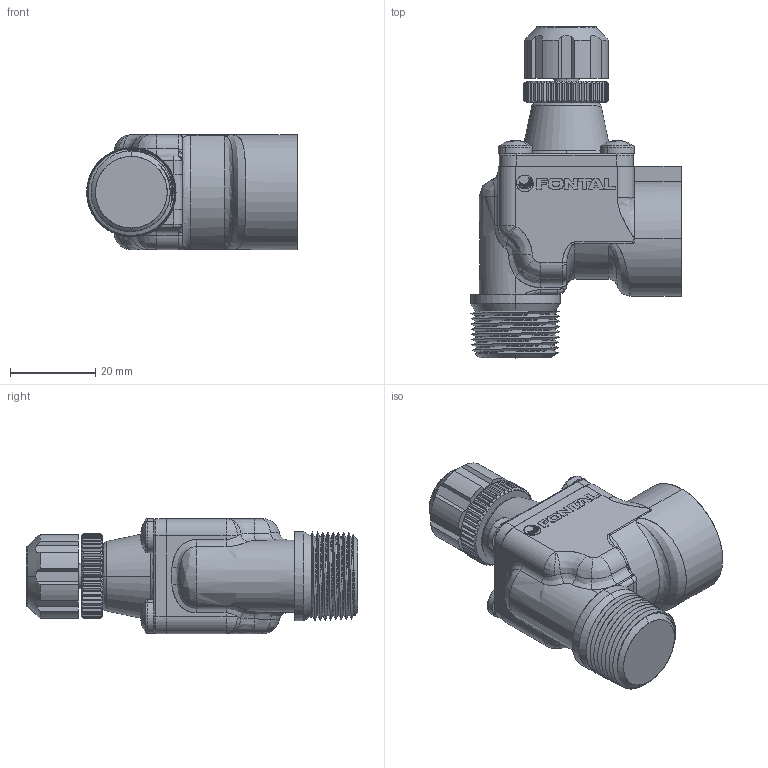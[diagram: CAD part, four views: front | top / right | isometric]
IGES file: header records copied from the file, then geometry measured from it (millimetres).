
Start section: SolidWorks IGES file using analytic representation for surfaces
Global section: file name: D:\Custom\3D繪製\Z-H\10\SPE-10-34.IGS, ; native system: SolidWorks 2014; preprocessor: SolidWorks 2014; author: Chieh_Lu; date: 160115.041715; units: millimetre
Bounding box: 49.5 x 78 x 27.11 mm (x, y, z)
Surface area: 14628.6 mm2 (no closed solid volume)
Topology: 0 solids, 0 shells, 676 faces, 5036 edges, 5022 vertices
Faces by surface type: bspline 377, revolution 299
